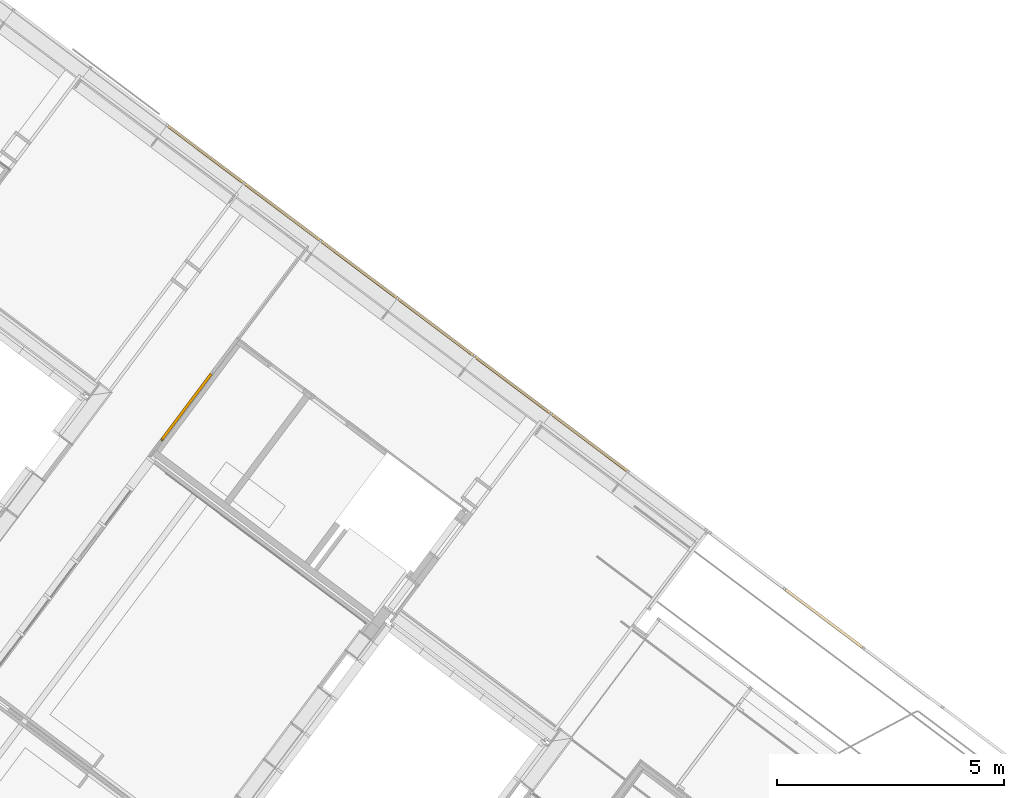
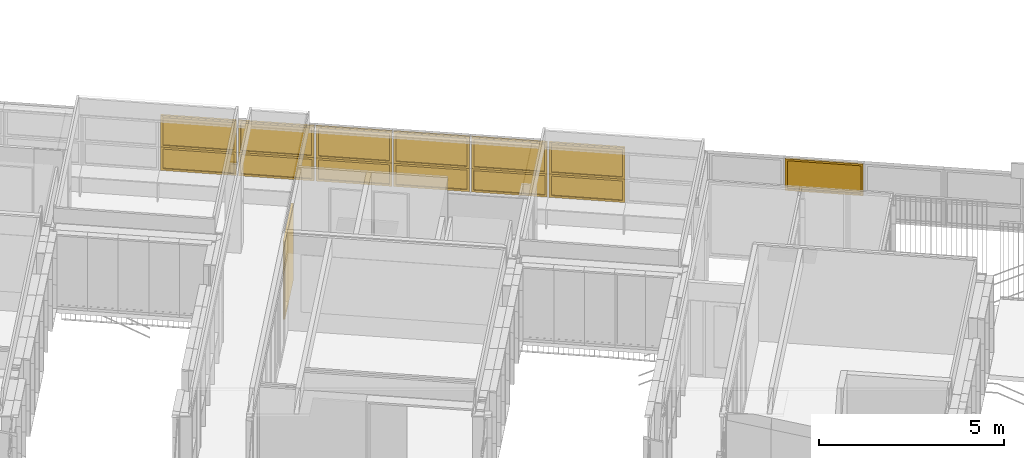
# One storey, part 212 of 243: 13 windows, 1 door, 2 elements without a shape of their own.
"""IFC2X3 building model written with IfcOpenShell, lengths in metres."""

from ifc_helpers import new_model, entity, si_unit, converted_unit, derived_unit, direction, frame, frame_2d, origin, place, context, subcontext, project, spatial, polyline, circle_curve, parameter, trimmed, segment, composite_curve, outline, extrude, faceted_brep, source, transform, mapped, material, material_list, type_object, type_shapes, element, aggregate, save


model = new_model("IFC2X3")

# Units and contexts
model_context = context("Model", 3, precision=1e-05, world=origin(), true_north=direction((6.123031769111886e-17, 1.0)))
body_context = subcontext(model_context, "Body", "Model", "MODEL_VIEW")
ifc_project = project(units=[si_unit("LENGTHUNIT", "METRE"), si_unit("AREAUNIT", "SQUARE_METRE"), si_unit("VOLUMEUNIT", "CUBIC_METRE"), converted_unit("PLANEANGLEUNIT", "DEGREE", entity("IfcRatioMeasure", 0.017453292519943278), si_unit("PLANEANGLEUNIT", "RADIAN"), dimensions=[0, 0, 0, 0, 0, 0, 0]), si_unit("MASSUNIT", "GRAM", prefix="KILO"), derived_unit("MASSDENSITYUNIT", [(si_unit("MASSUNIT", "GRAM", prefix="KILO"), 1), (si_unit("LENGTHUNIT", "METRE"), -3)]), derived_unit("IONCONCENTRATIONUNIT", [(si_unit("MASSUNIT", "GRAM", prefix="KILO"), 1), (si_unit("LENGTHUNIT", "METRE"), -3)]), derived_unit("MOMENTOFINERTIAUNIT", [(si_unit("LENGTHUNIT", "METRE"), 4)]), si_unit("TIMEUNIT", "SECOND"), si_unit("FREQUENCYUNIT", "HERTZ"), si_unit("THERMODYNAMICTEMPERATUREUNIT", "DEGREE_CELSIUS"), derived_unit("THERMALTRANSMITTANCEUNIT", [(si_unit("MASSUNIT", "GRAM", prefix="KILO"), 1), (si_unit("THERMODYNAMICTEMPERATUREUNIT", "KELVIN"), -1), (si_unit("TIMEUNIT", "SECOND"), -3)]), derived_unit("THERMALCONDUCTANCEUNIT", [(si_unit("MASSUNIT", "GRAM", prefix="KILO"), 1), (si_unit("THERMODYNAMICTEMPERATUREUNIT", "KELVIN"), -1), (si_unit("TIMEUNIT", "SECOND"), -3), (si_unit("LENGTHUNIT", "METRE"), 1)]), derived_unit("VOLUMETRICFLOWRATEUNIT", [(si_unit("LENGTHUNIT", "METRE"), 3), (si_unit("TIMEUNIT", "SECOND"), -1)]), derived_unit("MASSFLOWRATEUNIT", [(si_unit("MASSUNIT", "GRAM", prefix="KILO"), 1), (si_unit("TIMEUNIT", "SECOND"), -1)]), derived_unit("ROTATIONALFREQUENCYUNIT", [(si_unit("TIMEUNIT", "SECOND"), -1)]), si_unit("ELECTRICCURRENTUNIT", "AMPERE"), si_unit("ELECTRICVOLTAGEUNIT", "VOLT"), si_unit("POWERUNIT", "WATT"), si_unit("FORCEUNIT", "NEWTON", prefix="KILO"), si_unit("ILLUMINANCEUNIT", "LUX"), si_unit("LUMINOUSFLUXUNIT", "LUMEN"), si_unit("LUMINOUSINTENSITYUNIT", "CANDELA"), derived_unit("USERDEFINED", [(si_unit("MASSUNIT", "GRAM", prefix="KILO"), -1), (si_unit("LENGTHUNIT", "METRE"), -2), (si_unit("TIMEUNIT", "SECOND"), 3), (si_unit("LUMINOUSFLUXUNIT", "LUMEN"), 1)]), derived_unit("USERDEFINED", [(si_unit("MASSUNIT", "GRAM", prefix="KILO"), 1), (si_unit("TIMEUNIT", "SECOND"), -3), (si_unit("LENGTHUNIT", "METRE"), 3), (si_unit("ELECTRICCURRENTUNIT", "AMPERE"), -2)]), derived_unit("SOUNDPOWERUNIT", [(si_unit("MASSUNIT", "GRAM", prefix="KILO"), 1), (si_unit("TIMEUNIT", "SECOND"), -3), (si_unit("LENGTHUNIT", "METRE"), 2)]), derived_unit("SOUNDPRESSUREUNIT", [(si_unit("MASSUNIT", "GRAM", prefix="KILO"), 1), (si_unit("LENGTHUNIT", "METRE"), -1), (si_unit("TIMEUNIT", "SECOND"), -2)]), derived_unit("LINEARVELOCITYUNIT", [(si_unit("LENGTHUNIT", "METRE"), 1), (si_unit("TIMEUNIT", "SECOND"), -1)]), si_unit("PRESSUREUNIT", "PASCAL"), derived_unit("USERDEFINED", [(si_unit("MASSUNIT", "GRAM", prefix="KILO"), 1), (si_unit("LENGTHUNIT", "METRE"), -2), (si_unit("TIMEUNIT", "SECOND"), -2)]), derived_unit("LINEARFORCEUNIT", [(si_unit("MASSUNIT", "GRAM", prefix="KILO"), 1), (si_unit("TIMEUNIT", "SECOND"), -2)]), derived_unit("PLANARFORCEUNIT", [(si_unit("MASSUNIT", "GRAM", prefix="KILO"), 1), (si_unit("LENGTHUNIT", "METRE"), -1), (si_unit("TIMEUNIT", "SECOND"), -2)]), derived_unit("SPECIFICHEATCAPACITYUNIT", [(si_unit("THERMODYNAMICTEMPERATUREUNIT", "KELVIN"), -1), (si_unit("LENGTHUNIT", "METRE"), 2), (si_unit("TIMEUNIT", "SECOND"), -2)]), derived_unit("HEATINGVALUEUNIT", [(si_unit("LENGTHUNIT", "METRE"), 2), (si_unit("TIMEUNIT", "SECOND"), -2)]), derived_unit("VAPORPERMEABILITYUNIT", [(si_unit("LENGTHUNIT", "METRE"), -1), (si_unit("TIMEUNIT", "SECOND"), 1)]), derived_unit("DYNAMICVISCOSITYUNIT", [(si_unit("MASSUNIT", "GRAM", prefix="KILO"), 1), (si_unit("TIMEUNIT", "SECOND"), -1), (si_unit("LENGTHUNIT", "METRE"), -1)]), derived_unit("THERMALEXPANSIONCOEFFICIENTUNIT", [(si_unit("THERMODYNAMICTEMPERATUREUNIT", "KELVIN"), -1)]), derived_unit("MODULUSOFELASTICITYUNIT", [(si_unit("MASSUNIT", "GRAM", prefix="KILO"), 1), (si_unit("LENGTHUNIT", "METRE"), -1), (si_unit("TIMEUNIT", "SECOND"), -2)]), derived_unit("ISOTHERMALMOISTURECAPACITYUNIT", [(si_unit("LENGTHUNIT", "METRE"), 3), (si_unit("MASSUNIT", "GRAM", prefix="KILO"), -1)]), derived_unit("MOISTUREDIFFUSIVITYUNIT", [(si_unit("TIMEUNIT", "SECOND"), -1), (si_unit("LENGTHUNIT", "METRE"), 2)])], contexts=[model_context])

# Site, building, storey
site_placement = place(None, frame((0.0, 0.0, 235.0), z_axis=(0.0, 0.0, 1.0), x_axis=(-0.7996477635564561, 0.6004693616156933, 0.0)))
site = spatial("IfcSite", under=ifc_project, at=site_placement, Name="Default", CompositionType="ELEMENT")
building_placement = place(site_placement, origin())
building = spatial("IfcBuilding", under=site, at=building_placement, CompositionType="ELEMENT")
storey_placement = place(building_placement, origin())
storey = spatial("IfcBuildingStorey", under=building, at=storey_placement, Name="P0- Escola", CompositionType="ELEMENT", Elevation=0.0)

# Curtain wall, windows
curtain_wall_type_1 = type_object("IfcCurtainWallType", Name="Muro cortina:MC- EXT- MC6", PredefinedType="NOTDEFINED")
curtain_wall_1_placement = place(storey_placement, origin())
curtain_wall_1 = element("IfcCurtainWall", 1, at=curtain_wall_1_placement, inside=storey, type_object=curtain_wall_type_1, Name="Muro cortina:MC- EXT- MC6", ObjectType="Muro cortina:MC- EXT- MC6")
ifc_material_1 = material(Name="_Vidre")
ifc_material_2 = material(Name="_Alumini- T1- Perfil")
ifc_material_list = material_list([ifc_material_1, ifc_material_2])
window_style_1 = type_object("IfcWindowStyle", Name="MC- Alu- Conjunt vidre fix- 62x60 cm:MC- Alu- Conjunt vidre fix- 62x60 cm", ConstructionType="NOTDEFINED", OperationType="NOTDEFINED", ParameterTakesPrecedence=False, Sizeable=False, material=ifc_material_list)
shared_shape_1 = source(origin(), body_context, "Body", "Brep", [
    faceted_brep([(0.984693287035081, -0.007600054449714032, 0.048806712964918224), (0.9846932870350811, -0.03160022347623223, 0.048806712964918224), (-0.9846932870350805, -0.03160022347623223, 0.048806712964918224), (-0.9846932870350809, -0.007600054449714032, 0.048806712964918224), (0.984693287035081, -0.007600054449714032, 0.7210000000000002), (-0.9846932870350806, -0.007600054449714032, 0.7210000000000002), (-0.9846932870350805, -0.03160022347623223, 0.7210000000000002), (0.9846932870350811, -0.03160022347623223, 0.7210000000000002)], [[[0, 1, 2, 3]], [[4, 0, 3, 5]], [[5, 3, 2, 6]], [[6, 2, 1, 7]], [[7, 1, 0, 4]], [[4, 5, 6, 7]]]),
    faceted_brep([(1.033499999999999, -0.05999999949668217, 0.7700000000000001), (1.033499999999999, -0.05999999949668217, 0.0), (1.033499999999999, 0.0, 0.0), (1.033499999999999, 0.0, 0.7699999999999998), (-1.033499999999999, 0.0, 0.7700000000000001), (-1.033499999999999, 0.0, 0.0), (0.9706931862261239, 0.0, 0.7071931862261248), (-0.9706931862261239, 0.0, 0.707193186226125), (-0.9706931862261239, 0.0, 0.0628068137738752), (0.9706931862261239, 0.0, 0.06280681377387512), (-1.033499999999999, -0.05999999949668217, 0.0), (-1.033499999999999, -0.05999999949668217, 0.7700000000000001), (-0.9706960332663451, -0.05999999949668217, 0.7071960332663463), (0.9706960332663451, -0.05999999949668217, 0.7071960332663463), (0.9706960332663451, -0.05999999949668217, 0.06280396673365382), (-0.9706960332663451, -0.05999999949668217, 0.06280396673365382), (0.9706960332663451, -0.03160022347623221, 0.7071960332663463), (0.9706960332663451, -0.03160022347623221, 0.06280396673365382), (-0.9706960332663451, -0.03160022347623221, 0.06280396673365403), (-0.9706960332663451, -0.03160022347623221, 0.7071960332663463), (-0.9846932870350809, -0.03160022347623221, 0.721193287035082), (0.9846932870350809, -0.03160022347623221, 0.721193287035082), (0.9846932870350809, -0.03160022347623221, 0.048806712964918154), (-0.9846932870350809, -0.03160022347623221, 0.04880671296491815), (0.9846932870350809, -0.007600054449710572, 0.721193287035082), (0.9846932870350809, -0.007600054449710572, 0.04880671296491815), (-0.9846932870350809, -0.007600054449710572, 0.048806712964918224), (-0.9846932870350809, -0.007600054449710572, 0.721193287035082), (-0.9706931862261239, -0.007600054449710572, 0.707193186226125), (0.9706931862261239, -0.007600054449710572, 0.707193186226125), (0.9706931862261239, -0.007600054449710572, 0.06280681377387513), (-0.9706931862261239, -0.007600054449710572, 0.06280681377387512)], [[[0, 1, 2, 3]], [[4, 3, 2, 5], [6, 7, 8, 9]], [[1, 10, 5, 2]], [[0, 11, 10, 1], [12, 13, 14, 15]], [[16, 17, 14, 13]], [[17, 18, 15, 14]], [[16, 19, 18, 17], [20, 21, 22, 23]], [[24, 25, 22, 21]], [[25, 26, 23, 22]], [[24, 27, 26, 25], [28, 29, 30, 31]], [[6, 9, 30, 29]], [[9, 8, 31, 30]], [[10, 11, 4, 5]], [[18, 19, 12, 15]], [[26, 27, 20, 23]], [[8, 7, 28, 31]], [[11, 0, 3, 4]], [[19, 16, 13, 12]], [[27, 24, 21, 20]], [[7, 6, 29, 28]]], outer=[[True], [True, False], [True], [True, False], [True], [True], [False, True], [True], [True], [True, False], [True], [True], [True], [True], [True], [True], [True], [True], [True], [True]]),
])
type_shapes(window_style_1, [shared_shape_1])
window_1_placement = place(curtain_wall_1_placement, frame((39.874643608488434, -42.34019175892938, 0.685), z_axis=(0.0, 0.0, 1.0), x_axis=(-1.0, 0.0, 0.0)))
window_1 = element("IfcWindow", 2, at=window_1_placement, type_object=window_style_1, material=ifc_material_list, Name="MC- Alu- Conjunt vidre fix- 62x60 cm:MC- Alu- Conjunt vidre fix- 62x60 cm", ObjectType="MC- Alu- Conjunt vidre fix- 62x60 cm:MC- Alu- Conjunt vidre fix- 62x60 cm", OverallHeight=0.7700000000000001, OverallWidth=2.066999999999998, context=body_context, shape_type="MappedRepresentation", body=[
    mapped(shared_shape_1, transform((0.0, 0.0, 0.0), scale=1.0)),
])
window_2_placement = place(curtain_wall_1_placement, frame((41.99164360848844, -42.34019175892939, 0.685), z_axis=(0.0, 0.0, 1.0), x_axis=(-1.0, 0.0, 0.0)))
window_2 = element("IfcWindow", 3, at=window_2_placement, type_object=window_style_1, material=ifc_material_list, Name="MC- Alu- Conjunt vidre fix- 62x60 cm:MC- Alu- Conjunt vidre fix- 62x60 cm", ObjectType="MC- Alu- Conjunt vidre fix- 62x60 cm:MC- Alu- Conjunt vidre fix- 62x60 cm", OverallHeight=0.7700000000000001, OverallWidth=2.066999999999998, context=body_context, shape_type="MappedRepresentation", body=[
    mapped(shared_shape_1, transform((0.0, 0.0, 0.0), scale=1.0)),
])
window_3_placement = place(curtain_wall_1_placement, frame((44.10864360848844, -42.3401917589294, 0.685), z_axis=(0.0, 0.0, 1.0), x_axis=(-1.0, 0.0, 0.0)))
window_3 = element("IfcWindow", 4, at=window_3_placement, type_object=window_style_1, material=ifc_material_list, Name="MC- Alu- Conjunt vidre fix- 62x60 cm:MC- Alu- Conjunt vidre fix- 62x60 cm", ObjectType="MC- Alu- Conjunt vidre fix- 62x60 cm:MC- Alu- Conjunt vidre fix- 62x60 cm", OverallHeight=0.7700000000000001, OverallWidth=2.066999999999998, context=body_context, shape_type="MappedRepresentation", body=[
    mapped(shared_shape_1, transform((0.0, 0.0, 0.0), scale=1.0)),
])
window_4_placement = place(curtain_wall_1_placement, frame((46.22564360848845, -42.34019175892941, 0.685), z_axis=(0.0, 0.0, 1.0), x_axis=(-1.0, 0.0, 0.0)))
window_4 = element("IfcWindow", 5, at=window_4_placement, type_object=window_style_1, material=ifc_material_list, Name="MC- Alu- Conjunt vidre fix- 62x60 cm:MC- Alu- Conjunt vidre fix- 62x60 cm", ObjectType="MC- Alu- Conjunt vidre fix- 62x60 cm:MC- Alu- Conjunt vidre fix- 62x60 cm", OverallHeight=0.7700000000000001, OverallWidth=2.066999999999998, context=body_context, shape_type="MappedRepresentation", body=[
    mapped(shared_shape_1, transform((0.0, 0.0, 0.0), scale=1.0)),
])
window_5_placement = place(curtain_wall_1_placement, frame((48.34264360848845, -42.34019175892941, 0.685), z_axis=(0.0, 0.0, 1.0), x_axis=(-1.0, 0.0, 0.0)))
window_5 = element("IfcWindow", 6, at=window_5_placement, type_object=window_style_1, material=ifc_material_list, Name="MC- Alu- Conjunt vidre fix- 62x60 cm:MC- Alu- Conjunt vidre fix- 62x60 cm", ObjectType="MC- Alu- Conjunt vidre fix- 62x60 cm:MC- Alu- Conjunt vidre fix- 62x60 cm", OverallHeight=0.7700000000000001, OverallWidth=2.066999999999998, context=body_context, shape_type="MappedRepresentation", body=[
    mapped(shared_shape_1, transform((0.0, 0.0, 0.0), scale=1.0)),
])
window_6_placement = place(curtain_wall_1_placement, frame((50.459643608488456, -42.340191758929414, 0.685), z_axis=(0.0, 0.0, 1.0), x_axis=(-1.0, 0.0, 0.0)))
window_6 = element("IfcWindow", 7, at=window_6_placement, type_object=window_style_1, material=ifc_material_list, Name="MC- Alu- Conjunt vidre fix- 62x60 cm:MC- Alu- Conjunt vidre fix- 62x60 cm", ObjectType="MC- Alu- Conjunt vidre fix- 62x60 cm:MC- Alu- Conjunt vidre fix- 62x60 cm", OverallHeight=0.7700000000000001, OverallWidth=2.066999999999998, context=body_context, shape_type="MappedRepresentation", body=[
    mapped(shared_shape_1, transform((0.0, 0.0, 0.0), scale=1.0)),
])
window_style_2 = type_object("IfcWindowStyle", Name="MC- Alu- Conjunt finestra basculant- 68x68 cm:MC- Alu- Conjunt finestra basculant- 68x68 cm", ConstructionType="NOTDEFINED", OperationType="NOTDEFINED", ParameterTakesPrecedence=False, Sizeable=False, material=ifc_material_list)
shared_shape_2 = source(origin(), body_context, "Body", "Brep", [
    faceted_brep([(0.9814117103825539, -0.035598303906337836, 0.051999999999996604), (-0.9814117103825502, -0.035598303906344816, 0.051999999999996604), (-0.9814117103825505, -0.011598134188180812, 0.051999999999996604), (0.9814117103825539, -0.011598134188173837, 0.051999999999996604), (0.9814117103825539, -0.035598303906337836, 0.9953027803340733), (0.9814117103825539, -0.011598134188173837, 0.9953027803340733), (-0.9814117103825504, -0.011598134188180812, 0.9953027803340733), (-0.9814117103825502, -0.035598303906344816, 0.9953027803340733)], [[[0, 1, 2, 3]], [[4, 0, 3, 5]], [[5, 3, 2, 6]], [[6, 2, 1, 7]], [[7, 1, 0, 4]], [[4, 5, 6, 7]]]),
    faceted_brep([(-0.9657108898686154, -0.009998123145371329, 0.9796019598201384), (-0.9657108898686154, -0.00999812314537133, 0.06789804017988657), (-0.9657108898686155, -0.007998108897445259, 0.06789804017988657), (-0.9657108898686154, -0.007998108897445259, 0.9796019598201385), (-0.994608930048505, -0.007998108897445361, 1.0085000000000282), (0.9946089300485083, -0.007998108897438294, 1.0085000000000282), (0.9946089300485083, -0.007998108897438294, 0.03899999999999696), (-0.994608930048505, -0.007998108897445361, 0.03899999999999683), (0.9657108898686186, -0.007998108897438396, 0.9796019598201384), (0.9657108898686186, -0.007998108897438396, 0.06789804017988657), (0.9657108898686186, -0.009998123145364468, 0.06789804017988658), (0.9657108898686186, -0.009998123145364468, 0.9796019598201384), (0.9814117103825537, -0.00999812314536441, 0.9953027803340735), (-0.9814117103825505, -0.009998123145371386, 0.9953027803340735), (-0.9814117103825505, -0.009998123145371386, 0.05219721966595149), (0.9814117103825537, -0.00999812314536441, 0.052197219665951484), (-0.9814117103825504, -0.040799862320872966, 0.9953027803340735), (-0.9814117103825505, -0.040799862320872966, 0.052197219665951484), (0.9814117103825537, -0.040799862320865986, 0.052197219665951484), (0.9814117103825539, -0.04079986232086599, 0.9953027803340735), (0.9657108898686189, -0.04079986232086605, 0.9796019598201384), (-0.9657108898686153, -0.04079986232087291, 0.9796019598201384), (-0.9657108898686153, -0.04079986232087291, 0.06789804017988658), (0.9657108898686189, -0.04079986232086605, 0.06789804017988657), (-0.9657108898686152, -0.06800005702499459, 0.9796019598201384), (-0.9657108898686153, -0.06800005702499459, 0.06789804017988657), (0.9657108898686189, -0.06800005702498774, 0.06789804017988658), (0.965710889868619, -0.06800005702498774, 0.9796019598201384), (1.0121128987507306, -0.06800005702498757, 1.0260039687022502), (-1.0121128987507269, -0.06800005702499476, 1.0260039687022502), (-1.0121128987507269, -0.06800005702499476, 0.021496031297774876), (1.0121128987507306, -0.06800005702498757, 0.02149603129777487), (-1.012112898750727, -0.06450003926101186, 1.0260039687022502), (-1.012112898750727, -0.06450003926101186, 0.02149603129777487), (1.0121128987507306, -0.06450003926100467, 0.021496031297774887), (1.0121128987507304, -0.06450003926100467, 1.0260039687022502), (0.9946089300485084, -0.06450003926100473, 1.0085000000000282), (-0.9946089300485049, -0.06450003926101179, 1.0085000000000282), (-0.9946089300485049, -0.06450003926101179, 0.03899999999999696), (0.9946089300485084, -0.06450003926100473, 0.038999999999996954)], [[[0, 1, 2, 3]], [[4, 5, 6, 7], [8, 3, 2, 9]], [[1, 10, 9, 2]], [[0, 11, 10, 1], [12, 13, 14, 15]], [[16, 17, 14, 13]], [[17, 18, 15, 14]], [[16, 19, 18, 17], [20, 21, 22, 23]], [[24, 25, 22, 21]], [[25, 26, 23, 22]], [[24, 27, 26, 25], [28, 29, 30, 31]], [[32, 33, 30, 29]], [[33, 34, 31, 30]], [[32, 35, 34, 33], [36, 37, 38, 39]], [[4, 7, 38, 37]], [[7, 6, 39, 38]], [[10, 11, 8, 9]], [[18, 19, 12, 15]], [[26, 27, 20, 23]], [[34, 35, 28, 31]], [[6, 5, 36, 39]], [[11, 0, 3, 8]], [[19, 16, 13, 12]], [[27, 24, 21, 20]], [[35, 32, 29, 28]], [[5, 4, 37, 36]]], outer=[[True], [True, False], [True], [False, True], [True], [True], [True, False], [True], [True], [False, True], [True], [True], [True, False], [True], [True], [True], [True], [True], [True], [True], [True], [True], [True], [True], [True]]),
    faceted_brep([(0.9706931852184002, 0.0, 0.9846931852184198), (0.9706931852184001, 0.0, 0.06280681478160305), (0.9706931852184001, -0.0040000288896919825, 0.06280681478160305), (0.9706931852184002, -0.0040000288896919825, 0.9846931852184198), (-0.9706931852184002, -0.0040000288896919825, 0.9846931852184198), (-0.9706931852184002, -0.0040000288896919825, 0.06280681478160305), (1.0060998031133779, -0.0040000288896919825, 1.0200998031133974), (-1.006099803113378, -0.0040000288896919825, 1.0200998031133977), (-1.0060998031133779, -0.0040000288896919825, 0.02740019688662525), (1.006099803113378, -0.0040000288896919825, 0.02740019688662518), (-0.9706931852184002, 0.0, 0.062806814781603), (-0.9706931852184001, 0.0, 0.9846931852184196), (-1.0335000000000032, 0.0, 1.0475000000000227), (1.0335000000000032, 0.0, 1.0475000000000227), (1.0335000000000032, 0.0, 0.0), (-1.0335000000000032, 0.0, 0.0), (1.0335000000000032, -0.05999999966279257, 1.0475000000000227), (1.033500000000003, -0.05999999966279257, 0.0), (-1.0335000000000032, -0.05999999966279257, 0.0), (-1.033500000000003, -0.05999999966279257, 1.0475000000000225), (-1.006099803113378, -0.05999999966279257, 1.0200998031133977), (1.006099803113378, -0.05999999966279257, 1.0200998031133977), (1.006099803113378, -0.05999999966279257, 0.027400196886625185), (-1.006099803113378, -0.05999999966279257, 0.02740019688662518)], [[[0, 1, 2, 3]], [[4, 3, 2, 5], [6, 7, 8, 9]], [[1, 10, 5, 2]], [[0, 11, 10, 1], [12, 13, 14, 15]], [[16, 17, 14, 13]], [[17, 18, 15, 14]], [[16, 19, 18, 17], [20, 21, 22, 23]], [[6, 9, 22, 21]], [[9, 8, 23, 22]], [[10, 11, 4, 5]], [[18, 19, 12, 15]], [[8, 7, 20, 23]], [[11, 0, 3, 4]], [[19, 16, 13, 12]], [[7, 6, 21, 20]]], outer=[[True], [False, True], [True], [False, True], [True], [True], [True, False], [True], [True], [True], [True], [True], [True], [True], [True]]),
])
type_shapes(window_style_2, [shared_shape_2])
window_7_placement = place(curtain_wall_1_placement, frame((39.874643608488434, -42.34019175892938, 1.455), z_axis=(0.0, 0.0, 1.0), x_axis=(-1.0, 0.0, 0.0)))
window_7 = element("IfcWindow", 8, at=window_7_placement, type_object=window_style_2, material=ifc_material_list, Name="MC- Alu- Conjunt finestra basculant- 68x68 cm:MC- Alu- Conjunt finestra basculant- 68x68 cm", ObjectType="MC- Alu- Conjunt finestra basculant- 68x68 cm:MC- Alu- Conjunt finestra basculant- 68x68 cm", OverallHeight=1.0475000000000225, OverallWidth=2.0670000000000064, context=body_context, shape_type="MappedRepresentation", body=[
    mapped(shared_shape_2, transform((0.0, 0.0, 0.0), scale=1.0)),
])
window_8_placement = place(curtain_wall_1_placement, frame((41.99164360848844, -42.34019175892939, 1.455), z_axis=(0.0, 0.0, 1.0), x_axis=(-1.0, 0.0, 0.0)))
window_8 = element("IfcWindow", 9, at=window_8_placement, type_object=window_style_2, material=ifc_material_list, Name="MC- Alu- Conjunt finestra basculant- 68x68 cm:MC- Alu- Conjunt finestra basculant- 68x68 cm", ObjectType="MC- Alu- Conjunt finestra basculant- 68x68 cm:MC- Alu- Conjunt finestra basculant- 68x68 cm", OverallHeight=1.0475000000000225, OverallWidth=2.0670000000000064, context=body_context, shape_type="MappedRepresentation", body=[
    mapped(shared_shape_2, transform((0.0, 0.0, 0.0), scale=1.0)),
])
window_9_placement = place(curtain_wall_1_placement, frame((44.10864360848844, -42.3401917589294, 1.455), z_axis=(0.0, 0.0, 1.0), x_axis=(-1.0, 0.0, 0.0)))
window_9 = element("IfcWindow", 10, at=window_9_placement, type_object=window_style_2, material=ifc_material_list, Name="MC- Alu- Conjunt finestra basculant- 68x68 cm:MC- Alu- Conjunt finestra basculant- 68x68 cm", ObjectType="MC- Alu- Conjunt finestra basculant- 68x68 cm:MC- Alu- Conjunt finestra basculant- 68x68 cm", OverallHeight=1.0475000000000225, OverallWidth=2.0670000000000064, context=body_context, shape_type="MappedRepresentation", body=[
    mapped(shared_shape_2, transform((0.0, 0.0, 0.0), scale=1.0)),
])
window_10_placement = place(curtain_wall_1_placement, frame((46.22564360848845, -42.34019175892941, 1.455), z_axis=(0.0, 0.0, 1.0), x_axis=(-1.0, 0.0, 0.0)))
window_10 = element("IfcWindow", 11, at=window_10_placement, type_object=window_style_2, material=ifc_material_list, Name="MC- Alu- Conjunt finestra basculant- 68x68 cm:MC- Alu- Conjunt finestra basculant- 68x68 cm", ObjectType="MC- Alu- Conjunt finestra basculant- 68x68 cm:MC- Alu- Conjunt finestra basculant- 68x68 cm", OverallHeight=1.0475000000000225, OverallWidth=2.0670000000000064, context=body_context, shape_type="MappedRepresentation", body=[
    mapped(shared_shape_2, transform((0.0, 0.0, 0.0), scale=1.0)),
])
window_11_placement = place(curtain_wall_1_placement, frame((48.34264360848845, -42.34019175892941, 1.455), z_axis=(0.0, 0.0, 1.0), x_axis=(-1.0, 0.0, 0.0)))
window_11 = element("IfcWindow", 12, at=window_11_placement, type_object=window_style_2, material=ifc_material_list, Name="MC- Alu- Conjunt finestra basculant- 68x68 cm:MC- Alu- Conjunt finestra basculant- 68x68 cm", ObjectType="MC- Alu- Conjunt finestra basculant- 68x68 cm:MC- Alu- Conjunt finestra basculant- 68x68 cm", OverallHeight=1.0475000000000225, OverallWidth=2.0670000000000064, context=body_context, shape_type="MappedRepresentation", body=[
    mapped(shared_shape_2, transform((0.0, 0.0, 0.0), scale=1.0)),
])
window_12_placement = place(curtain_wall_1_placement, frame((50.459643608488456, -42.340191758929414, 1.455), z_axis=(0.0, 0.0, 1.0), x_axis=(-1.0, 0.0, 0.0)))
window_12 = element("IfcWindow", 13, at=window_12_placement, type_object=window_style_2, material=ifc_material_list, Name="MC- Alu- Conjunt finestra basculant- 68x68 cm:MC- Alu- Conjunt finestra basculant- 68x68 cm", ObjectType="MC- Alu- Conjunt finestra basculant- 68x68 cm:MC- Alu- Conjunt finestra basculant- 68x68 cm", OverallHeight=1.0475000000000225, OverallWidth=2.0670000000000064, context=body_context, shape_type="MappedRepresentation", body=[
    mapped(shared_shape_2, transform((0.0, 0.0, 0.0), scale=1.0)),
])
aggregate(curtain_wall_1, [window_1, window_2, window_3, window_4, window_5, window_6, window_7, window_8, window_9, window_10, window_11, window_12])

# Curtain wall, window
curtain_wall_type_2 = type_object("IfcCurtainWallType", Name="Muro cortina:MC- EXT- MC9", PredefinedType="NOTDEFINED")
curtain_wall_2_placement = place(storey_placement, origin())
curtain_wall_2 = element("IfcCurtainWall", 14, at=curtain_wall_2_placement, inside=storey, type_object=curtain_wall_type_2, Name="Muro cortina:MC- EXT- MC9", ObjectType="Muro cortina:MC- EXT- MC9")
window_style_3 = type_object("IfcWindowStyle", Name="MC- Alu- Conjunt vidre fix- 62x60 cm:MC- Alu- Conjunt vidre fix- 62x60 cm", ConstructionType="NOTDEFINED", OperationType="NOTDEFINED", ParameterTakesPrecedence=False, Sizeable=False, material=ifc_material_list)
shared_shape_3 = source(origin(), body_context, "Body", "Brep", [
    faceted_brep([(1.0146932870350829, -0.007600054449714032, 0.048806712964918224), (1.0146932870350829, -0.03160022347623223, 0.048806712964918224), (-1.0146932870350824, -0.03160022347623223, 0.048806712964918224), (-1.0146932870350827, -0.007600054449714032, 0.048806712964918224), (1.0146932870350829, -0.007600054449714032, 1.003500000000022), (-1.0146932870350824, -0.007600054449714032, 1.003500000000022), (-1.0146932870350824, -0.03160022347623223, 1.003500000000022), (1.0146932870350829, -0.03160022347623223, 1.003500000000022)], [[[0, 1, 2, 3]], [[4, 0, 3, 5]], [[5, 3, 2, 6]], [[6, 2, 1, 7]], [[7, 1, 0, 4]], [[4, 5, 6, 7]]]),
    faceted_brep([(1.063500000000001, -0.05999999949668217, 1.052500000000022), (1.0635000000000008, -0.05999999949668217, 0.0), (1.0635000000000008, 0.0, 0.0), (1.0635000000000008, 0.0, 1.0525000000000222), (-1.0635000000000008, 0.0, 1.052500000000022), (-1.0635000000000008, 0.0, 0.0), (1.0006931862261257, 0.0, 0.989693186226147), (-1.0006931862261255, 0.0, 0.9896931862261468), (-1.0006931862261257, 0.0, 0.06280681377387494), (1.0006931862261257, 0.0, 0.06280681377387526), (-1.0635000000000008, -0.05999999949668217, 0.0), (-1.0635000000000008, -0.05999999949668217, 1.0525000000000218), (-1.000696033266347, -0.05999999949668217, 0.9896960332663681), (1.000696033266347, -0.05999999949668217, 0.9896960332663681), (1.000696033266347, -0.05999999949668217, 0.06280396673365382), (-1.000696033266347, -0.05999999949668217, 0.06280396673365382), (1.000696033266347, -0.03160022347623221, 0.9896960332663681), (1.0006960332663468, -0.03160022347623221, 0.06280396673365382), (-1.000696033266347, -0.03160022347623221, 0.06280396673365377), (-1.0006960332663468, -0.03160022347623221, 0.989696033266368), (-1.0146932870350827, -0.03160022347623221, 1.0036932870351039), (1.0146932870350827, -0.03160022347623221, 1.0036932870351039), (1.0146932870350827, -0.03160022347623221, 0.048806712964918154), (-1.0146932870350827, -0.03160022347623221, 0.04880671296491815), (1.0146932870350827, -0.007600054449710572, 1.0036932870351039), (1.0146932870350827, -0.007600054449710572, 0.04880671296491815), (-1.0146932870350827, -0.007600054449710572, 0.048806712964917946), (-1.0146932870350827, -0.007600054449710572, 1.0036932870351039), (-1.0006931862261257, -0.007600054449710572, 0.9896931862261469), (1.0006931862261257, -0.007600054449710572, 0.9896931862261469), (1.0006931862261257, -0.007600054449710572, 0.06280681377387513), (-1.0006931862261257, -0.007600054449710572, 0.06280681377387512)], [[[0, 1, 2, 3]], [[4, 3, 2, 5], [6, 7, 8, 9]], [[1, 10, 5, 2]], [[0, 11, 10, 1], [12, 13, 14, 15]], [[16, 17, 14, 13]], [[17, 18, 15, 14]], [[16, 19, 18, 17], [20, 21, 22, 23]], [[24, 25, 22, 21]], [[25, 26, 23, 22]], [[24, 27, 26, 25], [28, 29, 30, 31]], [[6, 9, 30, 29]], [[9, 8, 31, 30]], [[10, 11, 4, 5]], [[18, 19, 12, 15]], [[26, 27, 20, 23]], [[8, 7, 28, 31]], [[11, 0, 3, 4]], [[19, 16, 13, 12]], [[27, 24, 21, 20]], [[7, 6, 29, 28]]], outer=[[True], [True, False], [True], [True, False], [True], [True], [False, True], [True], [True], [True, False], [True], [True], [True], [True], [True], [True], [True], [True], [True], [True]]),
])
type_shapes(window_style_3, [shared_shape_3])
window_13_placement = place(curtain_wall_2_placement, frame((33.41364360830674, -42.34019175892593, 1.4500000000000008), z_axis=(0.0, 0.0, 1.0), x_axis=(-1.0, 0.0, 0.0)))
window_13 = element("IfcWindow", 15, at=window_13_placement, type_object=window_style_3, material=ifc_material_list, Name="MC- Alu- Conjunt vidre fix- 62x60 cm:MC- Alu- Conjunt vidre fix- 62x60 cm", ObjectType="MC- Alu- Conjunt vidre fix- 62x60 cm:MC- Alu- Conjunt vidre fix- 62x60 cm", OverallHeight=1.0525000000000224, OverallWidth=2.127000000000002, context=body_context, shape_type="MappedRepresentation", body=[
    mapped(shared_shape_3, transform((0.0, 0.0, 0.0), scale=1.0)),
])
aggregate(curtain_wall_2, [window_13])

# Door
ifc_material_3 = material(Name="_Fusta massisa- T1")
door_style = type_object("IfcDoorStyle", Name="FUS- Porta Fusta- Tancament passadis:FUS- Porta Fusta- Tancament passadis", ConstructionType="NOTDEFINED", OperationType="SINGLE_SWING_LEFT", ParameterTakesPrecedence=False, Sizeable=False, material=ifc_material_3)
shared_shape_4 = source(origin(), body_context, "Body", "SweptSolid", [
    extrude(outline(composite_curve([segment(polyline([(-0.9043099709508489, -0.03000000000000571), (0.904309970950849, -0.030000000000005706)]), True, "CONTINUOUS"), segment(trimmed(circle_curve(frame_2d((0.904309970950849, 0.0), x_axis=(-1.0, 0.0)), 0.030000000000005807), [parameter(89.99999999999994)], [parameter(269.99999999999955)], True, "PARAMETER"), True, "CONTINUOUS"), segment(polyline([(0.9043099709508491, 0.030000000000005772), (-0.9043099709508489, 0.030000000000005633)]), True, "CONTINUOUS"), segment(polyline([(-0.9043099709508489, 0.030000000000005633), (-0.9043099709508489, -0.03000000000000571)]), True, "CONTINUOUS")], self_intersect=False), holes=[composite_curve([segment(trimmed(circle_curve(frame_2d((0.904309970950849, 0.0), x_axis=(-1.0, 0.0)), 0.014999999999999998), [parameter(3.053332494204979e-13)], [parameter(180.0)], True, "PARAMETER"), False, "CONTINUOUS"), segment(trimmed(circle_curve(frame_2d((0.904309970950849, 0.0), x_axis=(-1.0, 0.0)), 0.014999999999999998), [parameter(179.99999999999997)], [parameter(0.0)], True, "PARAMETER"), False, "CONTINUOUS")], self_intersect=False)]), frame((0.9343099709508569, 0.0, 0.0), z_axis=(0.0, 0.0, 1.0), x_axis=(-1.0, 0.0, 0.0)), (0.0, 0.0, 1.0), 2.5649999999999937),
])
type_shapes(door_style, [shared_shape_4])
door_placement = place(storey_placement, frame((47.45014768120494, -36.66969175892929, 0.0), z_axis=(0.0, 0.0, 1.0), x_axis=(0.0, -1.0, 0.0)))
element("IfcDoor", 16, at=door_placement, inside=storey, type_object=door_style, material=ifc_material_3, Name="FUS- Porta Fusta- Tancament passadis:FUS- Porta Fusta- Tancament passadis", ObjectType="FUS- Porta Fusta- Tancament passadis:FUS- Porta Fusta- Tancament passadis", OverallHeight=2.5650000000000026, OverallWidth=1.8386199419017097, context=body_context, shape_type="MappedRepresentation", body=[
    mapped(shared_shape_4, transform((0.0, 0.0, 0.0), scale=1.0)),
])

save(model, "model.ifc")
